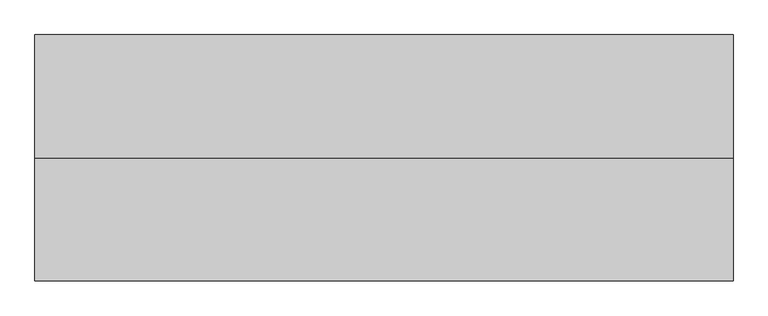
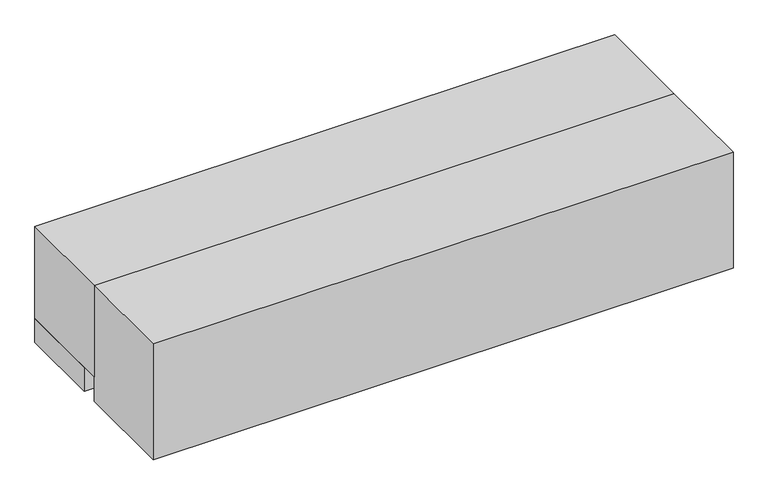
"""IFC4 building model written with IfcOpenShell, lengths in millimetres: proxy geometry, Exposed_Low_Boy_Fan_Coil_Unit Fan_-_LXA_-_IEC_-_2-Pipe_LH_2022 : Size 06 - 277v/60Hz/1Ph - 2/1 Coil."""

from ifc_helpers import new_model, si_unit, point, frame, frame_2d, origin, origin_with_axes, place, context, project, spatial, polyline, circle_curve, trimmed, segment, composite_curve, outline, extrude, faceted_brep, source, transform, mapped, element, save


def mechanical_equipment_9b063579(model_context):
    return source(origin(), model_context, "Body", "SolidModel", [
        faceted_brep([(393.7, -266.7, 114.3), (215.9, -266.7, 114.3), (215.9, -520.7, 114.3), (393.7, -520.7, 114.3), (219.075, -269.875, 114.3), (390.525, -269.875, 114.3), (390.525, -517.525, 114.3), (219.075, -517.525, 114.3), (393.7, -266.7, 88.9), (393.7, -520.7, 88.9), (215.9, -520.7, 88.9), (215.9, -266.7, 88.9), (390.525, -269.875, 92.0747888), (219.075, -269.875, 92.0747888), (219.075, -517.525, 92.0747888), (390.525, -517.525, 92.0747888)], [[[0, 1, 2, 3], [4, 5, 6, 7]], [[8, 9, 10, 11]], [[1, 0, 8, 11]], [[2, 1, 11, 10]], [[3, 2, 10, 9]], [[0, 3, 9, 8]], [[12, 13, 14, 15]], [[13, 12, 5, 4]], [[14, 13, 4, 7]], [[15, 14, 7, 6]], [[12, 15, 6, 5]]]),
        extrude(outline(composite_curve([segment(trimmed(circle_curve(frame_2d((304.8, -393.7)), 9.525), [point((295.275, -393.7))], [point((314.325, -393.7))], False, "CARTESIAN"), True, "CONTINUOUS"), segment(trimmed(circle_curve(frame_2d((304.8, -393.7)), 9.525), [point((314.325, -393.7))], [point((295.275, -393.7))], False, "CARTESIAN"), True, "CONTINUOUS")], self_intersect=False)), frame((0.0, 0.0, 63.5), z_axis=(0.0, 0.0, 1.0), x_axis=(1.0, 0.0, 0.0)), (0.0, 0.0, 1.0), 25.4),
        extrude(outline(polyline([(222.6730703, 1763.7868862), (212.725, 1795.9602728), (354.8959244, 1795.9602728), (331.8739183, 1763.7868862), (222.6730703, 1763.7868862)])), frame((0.0, -546.1, 0.0), z_axis=(0.0, 1.0, 0.0), x_axis=(0.0, 0.0, 1.0)), (0.0, 0.0, 1.0), 3.175),
        extrude(outline(polyline([(301.6723557, 1802.7186058), (298.4699632, 1828.8), (327.6988042, 1828.8), (335.7632193, 1802.7186058), (301.6723557, 1802.7186058)])), frame((0.0, -546.1, 0.0), z_axis=(0.0, 1.0, 0.0), x_axis=(0.0, 0.0, 1.0)), (0.0, 0.0, 1.0), 3.175),
        extrude(outline(polyline([(249.8088288, 1828.8), (246.1433279, 1802.7186058), (212.725, 1802.7186058), (221.3592372, 1828.8), (249.8088288, 1828.8)])), frame((0.0, -546.1, 0.0), z_axis=(0.0, 1.0, 0.0), x_axis=(0.0, 0.0, 1.0)), (0.0, 0.0, 1.0), 3.175),
        extrude(outline(polyline([(289.1239903, 1828.8), (291.4058166, 1802.7186058), (255.4682681, 1802.7186058), (258.2095331, 1828.8), (289.1239903, 1828.8)])), frame((0.0, -546.1, 0.0), z_axis=(0.0, 1.0, 0.0), x_axis=(0.0, 0.0, 1.0)), (0.0, 0.0, 1.0), 3.175),
        faceted_brep([(1879.6, -238.125, 365.125), (152.4, -238.125, 365.125), (152.4, -542.925, 365.125), (1879.6, -542.925, 365.125), (1879.6, -238.125, 76.2), (1879.6, -542.925, 76.2), (152.4, -542.925, 76.2), (152.4, -238.125, 76.2), (165.1, -238.125, 76.2), (165.1, -517.525, 76.2), (393.7, -517.525, 76.2), (393.7, -238.125, 76.2), (1638.3, -238.125, 76.2), (1638.3, -517.525, 76.2), (1866.9, -517.525, 76.2), (1866.9, -238.125, 76.2), (1866.9, -238.125, 339.725), (1638.3, -238.125, 339.725), (393.7, -238.125, 339.725), (165.1, -238.125, 339.725), (1866.9, -517.525, 339.725), (1638.3, -517.525, 339.725), (393.7, -517.525, 339.725), (165.1, -517.525, 339.725)], [[[0, 1, 2, 3]], [[4, 5, 6, 7, 8, 9, 10, 11, 12, 13, 14, 15]], [[1, 0, 4, 15, 16, 17, 12, 11, 18, 19, 8, 7]], [[2, 1, 7, 6]], [[3, 2, 6, 5]], [[0, 3, 5, 4]], [[16, 20, 21, 17]], [[18, 22, 23, 19]], [[17, 21, 13, 12]], [[21, 20, 14, 13]], [[20, 16, 15, 14]], [[19, 23, 9, 8]], [[23, 22, 10, 9]], [[22, 18, 11, 10]]]),
        extrude(outline(polyline([(1638.3, -492.125), (393.7, -492.125), (393.7, -244.475), (1638.3, -244.475), (1638.3, -492.125)])), origin_with_axes(), (0.0, 0.0, 1.0), 6.35),
        extrude(outline(polyline([(1638.3, -238.125), (1638.3, -244.475), (393.7, -244.475), (393.7, -238.125), (1638.3, -238.125)])), origin_with_axes(), (0.0, 0.0, 1.0), 76.2),
        extrude(outline(polyline([(1879.6, -238.125), (1879.6, -492.125), (1638.3, -492.125), (1638.3, -238.125), (1879.6, -238.125)]), holes=[polyline([(1651.0, -485.775), (1866.9, -485.775), (1866.9, -244.475), (1651.0, -244.475), (1651.0, -485.775)])]), origin_with_axes(), (0.0, 0.0, 1.0), 76.2),
        extrude(outline(polyline([(393.7, -238.125), (393.7, -492.125), (152.4, -492.125), (152.4, -238.125), (393.7, -238.125)]), holes=[polyline([(381.0, -244.475), (165.1, -244.475), (165.1, -485.775), (381.0, -485.775), (381.0, -244.475)])]), origin_with_axes(), (0.0, 0.0, 1.0), 76.2),
        extrude(outline(composite_curve([segment(trimmed(circle_curve(frame_2d((-485.775, 227.0125)), 7.9375), [point((-485.775, 219.075))], [point((-485.775, 234.95))], False, "CARTESIAN"), True, "CONTINUOUS"), segment(trimmed(circle_curve(frame_2d((-485.775, 227.0125)), 7.9375), [point((-485.775, 234.95))], [point((-485.775, 219.075))], False, "CARTESIAN"), True, "CONTINUOUS")], self_intersect=False)), frame((342.9, 0.0, 0.0), z_axis=(1.0, 0.0, 0.0), x_axis=(0.0, 1.0, 0.0)), (0.0, 0.0, 1.0), 50.8),
        extrude(outline(composite_curve([segment(trimmed(circle_curve(frame_2d((-269.875, 273.05)), 7.9375), [point((-269.875, 265.1125))], [point((-269.875, 280.9875))], False, "CARTESIAN"), True, "CONTINUOUS"), segment(trimmed(circle_curve(frame_2d((-269.875, 273.05)), 7.9375), [point((-269.875, 280.9875))], [point((-269.875, 265.1125))], False, "CARTESIAN"), True, "CONTINUOUS")], self_intersect=False)), frame((342.9, 0.0, 0.0), z_axis=(1.0, 0.0, 0.0), x_axis=(0.0, 1.0, 0.0)), (0.0, 0.0, 1.0), 50.8),
        extrude(outline(polyline([(1879.6, -847.725), (152.4, -847.725), (152.4, -542.925), (1879.6, -542.925), (1879.6, -847.725)])), origin_with_axes(), (0.0, 0.0, 1.0), 365.125),
    ])


if __name__ == "__main__":
    model = new_model("IFC4")
    model_context = context("Model", 3, world=origin())
    ifc_project = project(units=[si_unit("LENGTHUNIT", "METRE", prefix="MILLI")], contexts=[model_context])
    site = spatial("IfcSite", under=ifc_project)
    building = spatial("IfcBuilding", under=site)
    placement = place(None, origin())
    mechanical_equipment_shape = mechanical_equipment_9b063579(model_context)
    element("IfcBuildingElementProxy", 1, Name="Exposed_Low_Boy_Fan_Coil_Unit Fan_-_LXA_-_IEC_-_2-Pipe_LH_2022 : Size 06 - 277v/60Hz/1Ph - 2/1 Coil", ObjectType="Exposed_Low_Boy_Fan_Coil_Unit Fan_-_LXA_-_IEC_-_2-Pipe_LH_2022 : Size 06 - 277v/60Hz/1Ph - 2/1 Coil", at=placement, inside=building, context=model_context, shape_type="MappedRepresentation", body=[
        mapped(mechanical_equipment_shape, transform((0.0, 0.0, 0.0), x_axis=(1.0, 0.0, 0.0), y_axis=(0.0, 1.0, 0.0), z_axis=(0.0, 0.0, 1.0))),
    ])
    save(model, "model.ifc")
